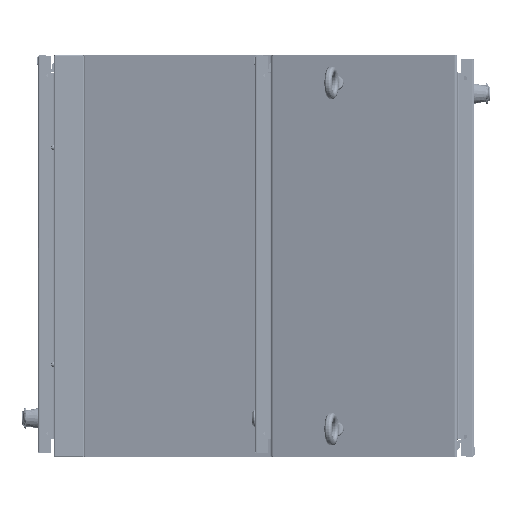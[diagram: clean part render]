
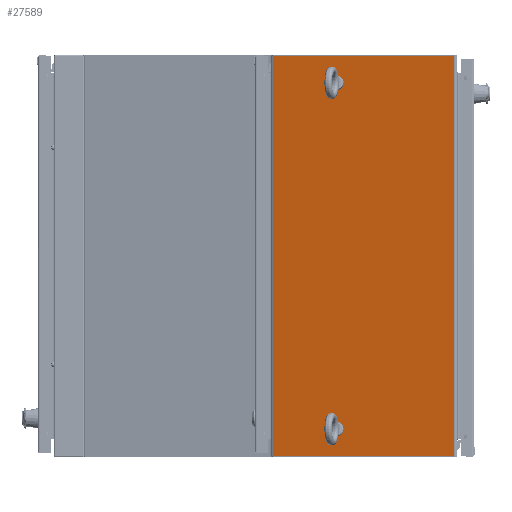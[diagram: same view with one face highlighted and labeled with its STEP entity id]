
A CAD part, front view. The second image highlights one B-rep face of the part: STEP entity #27589.
In plain terms, the highlighted planar face has unit normal (-0.259, -0.966, 0) as drawn and (0, 1, 0) by its records, which use the part's own axes.
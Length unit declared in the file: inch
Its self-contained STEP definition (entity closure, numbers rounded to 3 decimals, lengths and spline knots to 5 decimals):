
#24904=DIRECTION('',(0.,0.,-1.));
#24905=VECTOR('',#24904,25.844);
#24906=CARTESIAN_POINT('',(6.04193,0.078,12.922));
#24907=LINE('',#24906,#24905);
#24911=DIRECTION('',(0.,0.,-1.));
#24912=VECTOR('',#24911,25.844);
#24913=CARTESIAN_POINT('',(-6.04949,0.078,12.922));
#24914=LINE('',#24913,#24912);
#24918=DIRECTION('',(0.,0.,-1.));
#24919=VECTOR('',#24918,0.09788);
#24920=CARTESIAN_POINT('',(-1.92449,0.078,-10.849));
#24921=LINE('',#24920,#24919);
#24925=CARTESIAN_POINT('',(-1.86449,0.078,-10.849));
#24926=DIRECTION('',(0.,1.,0.));
#24927=DIRECTION('',(-1.,0.,0.));
#24928=AXIS2_PLACEMENT_3D('',#24925,#24926,#24927);
#24933=DIRECTION('',(-1.,0.,0.));
#24934=VECTOR('',#24933,0.13);
#24935=CARTESIAN_POINT('',(-1.73449,0.078,-10.789));
#24936=LINE('',#24935,#24934);
#24940=CARTESIAN_POINT('',(-1.73449,0.078,-10.849));
#24941=DIRECTION('',(0.,1.,0.));
#24942=DIRECTION('',(0.,0.,1.));
#24943=AXIS2_PLACEMENT_3D('',#24940,#24941,#24942);
#24948=DIRECTION('',(0.,0.,1.));
#24949=VECTOR('',#24948,0.09788);
#24950=CARTESIAN_POINT('',(-1.67449,0.078,-10.94688));
#24951=LINE('',#24950,#24949);
#24955=CARTESIAN_POINT('',(-1.79949,0.078,-11.172));
#24956=DIRECTION('',(0.,1.,0.));
#24957=DIRECTION('',(0.485,0.,0.874));
#24958=AXIS2_PLACEMENT_3D('',#24955,#24956,#24957);
#24963=DIRECTION('',(0.,0.,1.));
#24964=VECTOR('',#24963,0.09788);
#24965=CARTESIAN_POINT('',(-1.67449,0.078,-11.495));
#24966=LINE('',#24965,#24964);
#24970=CARTESIAN_POINT('',(-1.73449,0.078,-11.495));
#24971=DIRECTION('',(0.,1.,0.));
#24972=DIRECTION('',(1.,0.,0.));
#24973=AXIS2_PLACEMENT_3D('',#24970,#24971,#24972);
#24978=DIRECTION('',(1.,0.,0.));
#24979=VECTOR('',#24978,0.13);
#24980=CARTESIAN_POINT('',(-1.86449,0.078,-11.555));
#24981=LINE('',#24980,#24979);
#24985=CARTESIAN_POINT('',(-1.86449,0.078,-11.495));
#24986=DIRECTION('',(0.,1.,0.));
#24987=DIRECTION('',(0.,0.,-1.));
#24988=AXIS2_PLACEMENT_3D('',#24985,#24986,#24987);
#24993=DIRECTION('',(0.,0.,-1.));
#24994=VECTOR('',#24993,0.09788);
#24995=CARTESIAN_POINT('',(-1.92449,0.078,-11.39712));
#24996=LINE('',#24995,#24994);
#25000=CARTESIAN_POINT('',(-1.79949,0.078,-11.172));
#25001=DIRECTION('',(0.,1.,0.));
#25002=DIRECTION('',(-0.485,0.,-0.874));
#25003=AXIS2_PLACEMENT_3D('',#25000,#25001,#25002);
#25008=DIRECTION('',(0.,0.,-1.));
#25009=VECTOR('',#25008,0.09788);
#25010=CARTESIAN_POINT('',(-1.92449,0.078,11.495));
#25011=LINE('',#25010,#25009);
#25015=CARTESIAN_POINT('',(-1.86449,0.078,11.495));
#25016=DIRECTION('',(0.,1.,0.));
#25017=DIRECTION('',(-1.,0.,0.));
#25018=AXIS2_PLACEMENT_3D('',#25015,#25016,#25017);
#25023=DIRECTION('',(-1.,0.,0.));
#25024=VECTOR('',#25023,0.13);
#25025=CARTESIAN_POINT('',(-1.73449,0.078,11.555));
#25026=LINE('',#25025,#25024);
#25030=CARTESIAN_POINT('',(-1.73449,0.078,11.495));
#25031=DIRECTION('',(0.,1.,0.));
#25032=DIRECTION('',(0.,0.,1.));
#25033=AXIS2_PLACEMENT_3D('',#25030,#25031,#25032);
#25038=DIRECTION('',(0.,0.,1.));
#25039=VECTOR('',#25038,0.09788);
#25040=CARTESIAN_POINT('',(-1.67449,0.078,11.39712));
#25041=LINE('',#25040,#25039);
#25045=CARTESIAN_POINT('',(-1.79949,0.078,11.172));
#25046=DIRECTION('',(0.,1.,0.));
#25047=DIRECTION('',(0.485,0.,0.874));
#25048=AXIS2_PLACEMENT_3D('',#25045,#25046,#25047);
#25053=DIRECTION('',(0.,0.,1.));
#25054=VECTOR('',#25053,0.09788);
#25055=CARTESIAN_POINT('',(-1.67449,0.078,10.849));
#25056=LINE('',#25055,#25054);
#25060=CARTESIAN_POINT('',(-1.73449,0.078,10.849));
#25061=DIRECTION('',(0.,1.,0.));
#25062=DIRECTION('',(1.,0.,0.));
#25063=AXIS2_PLACEMENT_3D('',#25060,#25061,#25062);
#25068=DIRECTION('',(1.,0.,0.));
#25069=VECTOR('',#25068,0.13);
#25070=CARTESIAN_POINT('',(-1.86449,0.078,10.789));
#25071=LINE('',#25070,#25069);
#25075=CARTESIAN_POINT('',(-1.86449,0.078,10.849));
#25076=DIRECTION('',(0.,1.,0.));
#25077=DIRECTION('',(0.,0.,-1.));
#25078=AXIS2_PLACEMENT_3D('',#25075,#25076,#25077);
#25083=DIRECTION('',(0.,0.,-1.));
#25084=VECTOR('',#25083,0.09788);
#25085=CARTESIAN_POINT('',(-1.92449,0.078,10.94688));
#25086=LINE('',#25085,#25084);
#25090=CARTESIAN_POINT('',(-1.79949,0.078,11.172));
#25091=DIRECTION('',(0.,1.,0.));
#25092=DIRECTION('',(-0.485,0.,-0.874));
#25093=AXIS2_PLACEMENT_3D('',#25090,#25091,#25092);
#25112=DIRECTION('',(1.,0.,0.));
#25113=VECTOR('',#25112,12.09142);
#25114=CARTESIAN_POINT('',(-6.04949,0.078,12.922));
#25115=LINE('',#25114,#25113);
#25320=DIRECTION('',(1.,0.,0.));
#25321=VECTOR('',#25320,12.09142);
#25322=CARTESIAN_POINT('',(-6.04949,0.078,-12.922));
#25323=LINE('',#25322,#25321);
#26710=CARTESIAN_POINT('',(-6.04949,0.078,12.922));
#26711=CARTESIAN_POINT('',(6.04193,0.078,12.922));
#26712=VERTEX_POINT('',#26710);
#26713=VERTEX_POINT('',#26711);
#26714=CARTESIAN_POINT('',(-6.04949,0.078,-12.922));
#26715=CARTESIAN_POINT('',(6.04193,0.078,-12.922));
#26716=VERTEX_POINT('',#26714);
#26717=VERTEX_POINT('',#26715);
#27022=CARTESIAN_POINT('',(-1.92449,0.078,11.495));
#27023=CARTESIAN_POINT('',(-1.92449,0.078,11.39712));
#27024=VERTEX_POINT('',#27022);
#27025=VERTEX_POINT('',#27023);
#27026=CARTESIAN_POINT('',(-1.92449,0.078,10.94688));
#27027=VERTEX_POINT('',#27026);
#27028=CARTESIAN_POINT('',(-1.92449,0.078,10.849));
#27029=VERTEX_POINT('',#27028);
#27030=CARTESIAN_POINT('',(-1.86449,0.078,10.789));
#27031=VERTEX_POINT('',#27030);
#27032=CARTESIAN_POINT('',(-1.73449,0.078,10.789));
#27033=VERTEX_POINT('',#27032);
#27034=CARTESIAN_POINT('',(-1.67449,0.078,10.849));
#27035=VERTEX_POINT('',#27034);
#27036=CARTESIAN_POINT('',(-1.67449,0.078,10.94688));
#27037=VERTEX_POINT('',#27036);
#27038=CARTESIAN_POINT('',(-1.67449,0.078,11.39712));
#27039=VERTEX_POINT('',#27038);
#27040=CARTESIAN_POINT('',(-1.67449,0.078,11.495));
#27041=VERTEX_POINT('',#27040);
#27042=CARTESIAN_POINT('',(-1.73449,0.078,11.555));
#27043=VERTEX_POINT('',#27042);
#27044=CARTESIAN_POINT('',(-1.86449,0.078,11.555));
#27045=VERTEX_POINT('',#27044);
#27046=CARTESIAN_POINT('',(-1.92449,0.078,-10.849));
#27047=CARTESIAN_POINT('',(-1.92449,0.078,-10.94688));
#27048=VERTEX_POINT('',#27046);
#27049=VERTEX_POINT('',#27047);
#27050=CARTESIAN_POINT('',(-1.92449,0.078,-11.39712));
#27051=VERTEX_POINT('',#27050);
#27052=CARTESIAN_POINT('',(-1.92449,0.078,-11.495));
#27053=VERTEX_POINT('',#27052);
#27054=CARTESIAN_POINT('',(-1.86449,0.078,-11.555));
#27055=VERTEX_POINT('',#27054);
#27056=CARTESIAN_POINT('',(-1.73449,0.078,-11.555));
#27057=VERTEX_POINT('',#27056);
#27058=CARTESIAN_POINT('',(-1.67449,0.078,-11.495));
#27059=VERTEX_POINT('',#27058);
#27060=CARTESIAN_POINT('',(-1.67449,0.078,-11.39712));
#27061=VERTEX_POINT('',#27060);
#27062=CARTESIAN_POINT('',(-1.67449,0.078,-10.94688));
#27063=VERTEX_POINT('',#27062);
#27064=CARTESIAN_POINT('',(-1.67449,0.078,-10.849));
#27065=VERTEX_POINT('',#27064);
#27066=CARTESIAN_POINT('',(-1.73449,0.078,-10.789));
#27067=VERTEX_POINT('',#27066);
#27068=CARTESIAN_POINT('',(-1.86449,0.078,-10.789));
#27069=VERTEX_POINT('',#27068);
#27523=CARTESIAN_POINT('',(-6.04949,0.078,12.922));
#27524=DIRECTION('',(0.,-1.,0.));
#27525=DIRECTION('',(1.,0.,0.));
#27526=AXIS2_PLACEMENT_3D('',#27523,#27524,#27525);
#27527=PLANE('',#27526);
#27529=ORIENTED_EDGE('',*,*,#27528,.F.);
#27531=ORIENTED_EDGE('',*,*,#27530,.T.);
#27533=ORIENTED_EDGE('',*,*,#27532,.T.);
#27534=ORIENTED_EDGE('',*,*,#27516,.F.);
#27535=EDGE_LOOP('',(#27529,#27531,#27533,#27534));
#27536=FACE_OUTER_BOUND('',#27535,.F.);
#27538=ORIENTED_EDGE('',*,*,#27537,.F.);
#27540=ORIENTED_EDGE('',*,*,#27539,.T.);
#27542=ORIENTED_EDGE('',*,*,#27541,.F.);
#27544=ORIENTED_EDGE('',*,*,#27543,.T.);
#27546=ORIENTED_EDGE('',*,*,#27545,.F.);
#27548=ORIENTED_EDGE('',*,*,#27547,.T.);
#27550=ORIENTED_EDGE('',*,*,#27549,.F.);
#27552=ORIENTED_EDGE('',*,*,#27551,.T.);
#27554=ORIENTED_EDGE('',*,*,#27553,.F.);
#27556=ORIENTED_EDGE('',*,*,#27555,.T.);
#27558=ORIENTED_EDGE('',*,*,#27557,.F.);
#27560=ORIENTED_EDGE('',*,*,#27559,.T.);
#27561=EDGE_LOOP('',(#27538,#27540,#27542,#27544,#27546,#27548,#27550,#27552,
#27554,#27556,#27558,#27560));
#27562=FACE_BOUND('',#27561,.F.);
#27564=ORIENTED_EDGE('',*,*,#27563,.F.);
#27566=ORIENTED_EDGE('',*,*,#27565,.T.);
#27568=ORIENTED_EDGE('',*,*,#27567,.F.);
#27570=ORIENTED_EDGE('',*,*,#27569,.T.);
#27572=ORIENTED_EDGE('',*,*,#27571,.F.);
#27574=ORIENTED_EDGE('',*,*,#27573,.T.);
#27576=ORIENTED_EDGE('',*,*,#27575,.F.);
#27578=ORIENTED_EDGE('',*,*,#27577,.T.);
#27580=ORIENTED_EDGE('',*,*,#27579,.F.);
#27582=ORIENTED_EDGE('',*,*,#27581,.T.);
#27584=ORIENTED_EDGE('',*,*,#27583,.F.);
#27586=ORIENTED_EDGE('',*,*,#27585,.T.);
#27587=EDGE_LOOP('',(#27564,#27566,#27568,#27570,#27572,#27574,#27576,#27578,
#27580,#27582,#27584,#27586));
#27588=FACE_BOUND('',#27587,.F.);
#24929=CIRCLE('',#24928,0.06);
#24944=CIRCLE('',#24943,0.06);
#24959=CIRCLE('',#24958,0.2575);
#24974=CIRCLE('',#24973,0.06);
#24989=CIRCLE('',#24988,0.06);
#25004=CIRCLE('',#25003,0.2575);
#25019=CIRCLE('',#25018,0.06);
#25034=CIRCLE('',#25033,0.06);
#25049=CIRCLE('',#25048,0.2575);
#25064=CIRCLE('',#25063,0.06);
#25079=CIRCLE('',#25078,0.06);
#25094=CIRCLE('',#25093,0.2575);
#27516=EDGE_CURVE('',#26713,#26717,#24907,.T.);
#27528=EDGE_CURVE('',#26712,#26713,#25115,.T.);
#27530=EDGE_CURVE('',#26712,#26716,#24914,.T.);
#27532=EDGE_CURVE('',#26716,#26717,#25323,.T.);
#27537=EDGE_CURVE('',#27048,#27049,#24921,.T.);
#27539=EDGE_CURVE('',#27048,#27069,#24929,.T.);
#27541=EDGE_CURVE('',#27067,#27069,#24936,.T.);
#27543=EDGE_CURVE('',#27067,#27065,#24944,.T.);
#27545=EDGE_CURVE('',#27063,#27065,#24951,.T.);
#27547=EDGE_CURVE('',#27063,#27061,#24959,.T.);
#27549=EDGE_CURVE('',#27059,#27061,#24966,.T.);
#27551=EDGE_CURVE('',#27059,#27057,#24974,.T.);
#27553=EDGE_CURVE('',#27055,#27057,#24981,.T.);
#27555=EDGE_CURVE('',#27055,#27053,#24989,.T.);
#27557=EDGE_CURVE('',#27051,#27053,#24996,.T.);
#27559=EDGE_CURVE('',#27051,#27049,#25004,.T.);
#27563=EDGE_CURVE('',#27024,#27025,#25011,.T.);
#27565=EDGE_CURVE('',#27024,#27045,#25019,.T.);
#27567=EDGE_CURVE('',#27043,#27045,#25026,.T.);
#27569=EDGE_CURVE('',#27043,#27041,#25034,.T.);
#27571=EDGE_CURVE('',#27039,#27041,#25041,.T.);
#27573=EDGE_CURVE('',#27039,#27037,#25049,.T.);
#27575=EDGE_CURVE('',#27035,#27037,#25056,.T.);
#27577=EDGE_CURVE('',#27035,#27033,#25064,.T.);
#27579=EDGE_CURVE('',#27031,#27033,#25071,.T.);
#27581=EDGE_CURVE('',#27031,#27029,#25079,.T.);
#27583=EDGE_CURVE('',#27027,#27029,#25086,.T.);
#27585=EDGE_CURVE('',#27027,#27025,#25094,.T.);
#27589=ADVANCED_FACE('',(#27536,#27562,#27588),#27527,.F.);
